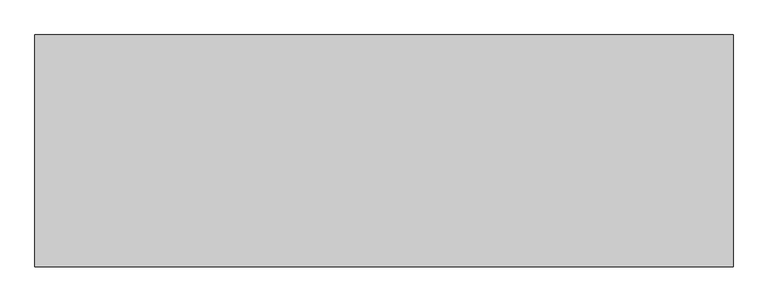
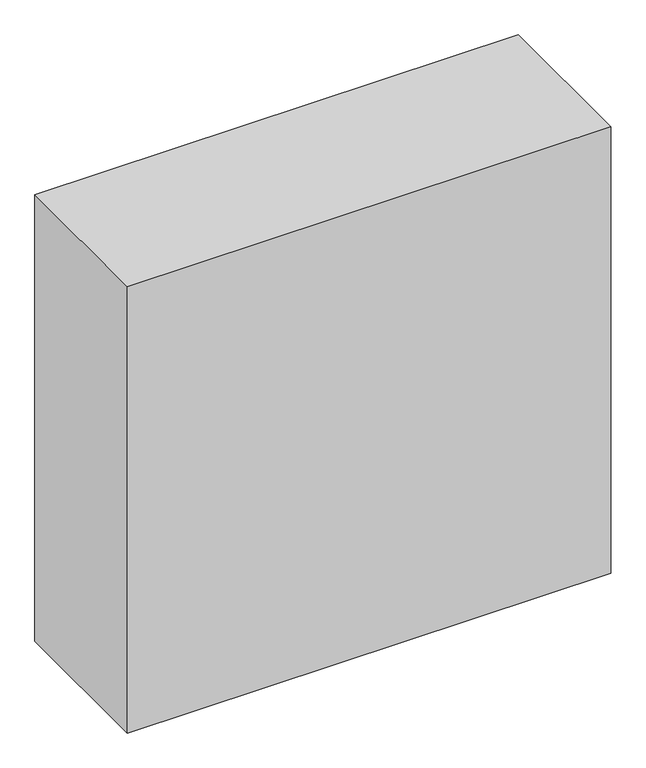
"""IFC4 building model written with IfcOpenShell, lengths in millimetres: unitary equipment geometry, nbl_Radiators : nbl_Radiators-625."""

from ifc_helpers import new_model, si_unit, point, frame, frame_2d, origin, origin_with_axes, place, context, project, spatial, polyline, circle_curve, trimmed, segment, composite_curve, outline, extrude, faceted_brep, source, transform, mapped, element, save


def unitary_equipment_6f832c0a(model_context):
    return source(origin(), model_context, "Body", "SolidModel", [
        extrude(outline(polyline([(484.3389423, -826.5161703), (484.3389423, -1166.5161703), (-540.6610577, -1166.5161703), (-540.6610577, -826.5161703), (484.3389423, -826.5161703)])), frame((0.0, 0.0, -200.0), z_axis=(0.0, 0.0, 1.0), x_axis=(1.0, 0.0, 0.0)), (0.0, 0.0, 1.0), 1000.0),
        extrude(outline(composite_curve([segment(trimmed(circle_curve(frame_2d((-916.5161703, 25.0)), 10.0), [point((-926.5161703, 25.0))], [point((-906.5161703, 25.0))], False, "CARTESIAN"), True, "CONTINUOUS"), segment(trimmed(circle_curve(frame_2d((-916.5161703, 25.0)), 10.0), [point((-906.5161703, 25.0))], [point((-926.5161703, 25.0))], False, "CARTESIAN"), True, "CONTINUOUS")], self_intersect=False)), frame((-342.6610577, 0.0, 0.0), z_axis=(1.0, 0.0, 0.0), x_axis=(0.0, 1.0, 0.0)), (0.0, 0.0, 1.0), 2.0),
        extrude(outline(composite_curve([segment(trimmed(circle_curve(frame_2d((-916.5161703, 570.0)), 10.0), [point((-926.5161703, 570.0))], [point((-906.5161703, 570.0))], False, "CARTESIAN"), True, "CONTINUOUS"), segment(trimmed(circle_curve(frame_2d((-916.5161703, 570.0)), 10.0), [point((-906.5161703, 570.0))], [point((-926.5161703, 570.0))], False, "CARTESIAN"), True, "CONTINUOUS")], self_intersect=False)), frame((-342.6610577, 0.0, 0.0), z_axis=(1.0, 0.0, 0.0), x_axis=(0.0, 1.0, 0.0)), (0.0, 0.0, 1.0), 2.0),
        extrude(outline(composite_curve([segment(trimmed(circle_curve(frame_2d((-916.5161703, 25.0)), 10.0), [point((-916.5161703, 35.0))], [point((-916.5161703, 15.0))], False, "CARTESIAN"), True, "CONTINUOUS"), segment(trimmed(circle_curve(frame_2d((-916.5161703, 25.0)), 10.0), [point((-916.5161703, 15.0))], [point((-916.5161703, 35.0))], False, "CARTESIAN"), True, "CONTINUOUS")], self_intersect=False)), frame((284.3389423, 0.0, 0.0), z_axis=(1.0, 0.0, 0.0), x_axis=(0.0, 1.0, 0.0)), (0.0, 0.0, 1.0), 2.0),
        extrude(outline(composite_curve([segment(trimmed(circle_curve(frame_2d((-916.5161703, 570.0)), 10.0), [point((-916.5161703, 580.0))], [point((-916.5161703, 560.0))], False, "CARTESIAN"), True, "CONTINUOUS"), segment(trimmed(circle_curve(frame_2d((-916.5161703, 570.0)), 10.0), [point((-916.5161703, 560.0))], [point((-916.5161703, 580.0))], False, "CARTESIAN"), True, "CONTINUOUS")], self_intersect=False)), frame((284.3389423, 0.0, 0.0), z_axis=(1.0, 0.0, 0.0), x_axis=(0.0, 1.0, 0.0)), (0.0, 0.0, 1.0), 2.0),
        faceted_brep([(264.3389423, -971.5161703, 580.0), (-320.6610577, -971.5161703, 580.0), (-320.6610577, -971.5161703, 10.0), (264.3389423, -971.5161703, 10.0), (272.3389423, -966.5161703, 588.0), (272.3389423, -966.5161703, 2.0), (-328.6610577, -966.5161703, 2.0), (-328.6610577, -966.5161703, 588.0)], [[[0, 1, 2, 3]], [[4, 5, 6, 7]], [[5, 4, 0, 3]], [[6, 5, 3, 2]], [[7, 6, 2, 1]], [[4, 7, 1, 0]]]),
        faceted_brep([(-330.6610577, -864.5161703, 0.0), (-330.6610577, -866.5161703, 0.0), (-340.6610577, -866.5161703, 0.0), (-340.6610577, -966.5161703, 0.0), (-330.6610577, -966.5161703, 0.0), (-330.6610577, -968.5161703, 0.0), (-342.6610577, -968.5161703, 0.0), (-342.6610577, -864.5161703, 0.0), (-342.6610577, -864.5161703, 602.0), (-330.6610577, -864.5161703, 602.0), (-342.6610577, -968.5161703, 602.0), (-330.6610577, -968.5161703, 602.0), (-330.6610577, -966.5161703, 600.0), (-330.6610577, -866.5161703, 600.0), (-340.6610577, -966.5161703, 600.0), (-340.6610577, -866.5161703, 600.0)], [[[0, 1, 2, 3, 4, 5, 6, 7]], [[0, 7, 8, 9]], [[8, 7, 6, 10]], [[10, 6, 5, 11]], [[11, 5, 4, 12, 13, 1, 0, 9]], [[4, 3, 14, 12]], [[3, 2, 15, 14]], [[2, 1, 13, 15]], [[13, 12, 14, 15]], [[9, 8, 10, 11]]]),
        faceted_brep([(286.3389423, -864.5161703, 0.0), (274.3389423, -864.5161703, 0.0), (274.3389423, -864.5161703, 602.0), (286.3389423, -864.5161703, 602.0), (286.3389423, -968.5161703, 602.0), (274.3389423, -968.5161703, 602.0), (274.3389423, -968.5161703, 0.0), (286.3389423, -968.5161703, 0.0), (274.3389423, -966.5161703, 600.0), (274.3389423, -866.5161703, 600.0), (284.3389423, -866.5161703, 600.0), (284.3389423, -966.5161703, 600.0), (274.3389423, -866.5161703, 0.0), (274.3389423, -966.5161703, 0.0), (284.3389423, -966.5161703, 0.0), (284.3389423, -866.5161703, 0.0)], [[[0, 1, 2, 3]], [[4, 5, 6, 7]], [[0, 3, 4, 7]], [[8, 9, 10, 11]], [[2, 1, 12, 9, 8, 13, 6, 5]], [[3, 2, 5, 4]], [[6, 13, 14, 15, 12, 1, 0, 7]], [[12, 15, 10, 9]], [[15, 14, 11, 10]], [[14, 13, 8, 11]]]),
        faceted_brep([(-330.6610577, -968.5161703, 602.0), (-330.6610577, -864.5161703, 602.0), (-330.6610577, -864.5161703, 590.0), (-330.6610577, -866.5161703, 590.0), (-330.6610577, -866.5161703, 600.0), (-330.6610577, -966.5161703, 600.0), (-330.6610577, -966.5161703, 590.0), (-330.6610577, -968.5161703, 590.0), (274.3389423, -968.5161703, 602.0), (274.3389423, -968.5161703, 590.0), (274.3389423, -966.5161703, 590.0), (274.3389423, -966.5161703, 600.0), (274.3389423, -866.5161703, 600.0), (274.3389423, -866.5161703, 590.0), (274.3389423, -864.5161703, 590.0), (274.3389423, -864.5161703, 602.0), (-320.6610577, -876.5161703, 602.0), (264.3389423, -876.5161703, 602.0), (264.3389423, -956.5161703, 602.0), (-320.6610577, -956.5161703, 602.0), (264.3389423, -876.5161703, 600.0), (-320.6610577, -876.5161703, 600.0), (-320.6610577, -956.5161703, 600.0), (264.3389423, -956.5161703, 600.0)], [[[0, 1, 2, 3, 4, 5, 6, 7]], [[8, 9, 10, 11, 12, 13, 14, 15]], [[1, 0, 8, 15], [16, 17, 18, 19]], [[2, 1, 15, 14]], [[3, 2, 14, 13]], [[4, 3, 13, 12]], [[5, 4, 12, 11], [20, 21, 22, 23]], [[6, 5, 11, 10]], [[7, 6, 10, 9]], [[0, 7, 9, 8]], [[16, 21, 20, 17]], [[18, 23, 22, 19]], [[17, 20, 23, 18]], [[21, 16, 19, 22]]]),
        extrude(outline(polyline([(-340.6610577, -866.5161703), (284.3389423, -866.5161703), (284.3389423, -876.5161703), (-340.6610577, -876.5161703), (-340.6610577, -866.5161703)])), origin_with_axes(), (0.0, 0.0, 1.0), 600.0),
        extrude(outline(polyline([(-340.6610577, -956.5161703), (284.3389423, -956.5161703), (284.3389423, -966.5161703), (-340.6610577, -966.5161703), (-340.6610577, -956.5161703)])), origin_with_axes(), (0.0, 0.0, 1.0), 600.0),
    ])


if __name__ == "__main__":
    model = new_model("IFC4")
    model_context = context("Model", 3, world=origin())
    ifc_project = project(units=[si_unit("LENGTHUNIT", "METRE", prefix="MILLI")], contexts=[model_context])
    site = spatial("IfcSite", under=ifc_project)
    building = spatial("IfcBuilding", under=site)
    placement = place(None, origin())
    unitary_equipment_shape = unitary_equipment_6f832c0a(model_context)
    element("IfcUnitaryEquipment", 1, ObjectType="nbl_Radiators : nbl_Radiators-625", at=placement, inside=building, context=model_context, shape_type="MappedRepresentation", body=[
        mapped(unitary_equipment_shape, transform((0.0, 0.0, 0.0), x_axis=(1.0, 0.0, 0.0), y_axis=(0.0, 1.0, 0.0), z_axis=(0.0, 0.0, 1.0))),
    ])
    save(model, "model.ifc")
